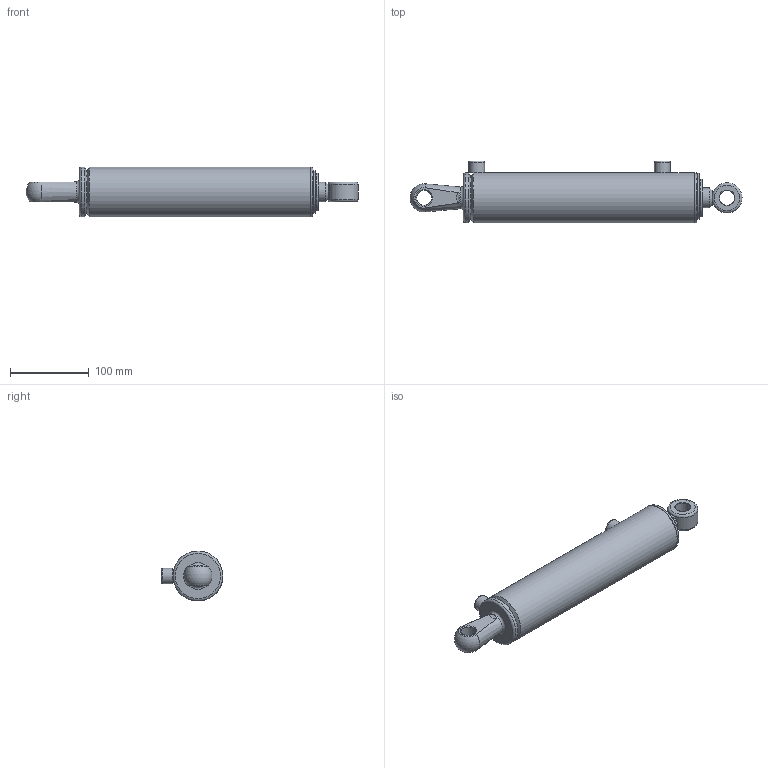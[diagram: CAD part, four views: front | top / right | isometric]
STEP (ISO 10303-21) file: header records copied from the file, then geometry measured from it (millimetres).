
FILE_DESCRIPTION(/* description */ ('Alibre Inc.'),/* implementation_level */ '2;1');
FILE_NAME(/* name */ 'export0',/* time_stamp */ '2016-08-16T09:49:13+12:00',/* author */ (''),/* organization */ (''),/* preprocessor_version */ 'ST-DEVELOPER v14',/* originating_system */ 'Alibre',/* authorisation */ '');
FILE_SCHEMA (('AUTOMOTIVE_DESIGN'));
Length unit declared in the file: centimetre
Bounding box: 421.94 x 78.5 x 63.5 mm (x, y, z)
Volume: 674593.4 mm3; surface area: 190284 mm2
Topology: 11 solids, 11 shells, 138 faces, 278 edges, 173 vertices
Faces by surface type: cylinder 51, plane 44, cone 27, torus 13, bspline 2, sphere 1
Full cylindrical faces by diameter (mm): 2.5 x2, 5.588 x1, 6.35 x2, 8.3 x2, 11.9 x2, 17.323 x2, 19.05 x2, 19.101 x1, 20 x2, 25.4 x1, 25.45 x2, 31.77 x1, 31.8 x1, 32.5 x1, 34.93 x2, 38.1 x1, 41.3 x2, 44.91 x1, 45.5 x1, 46.23 x2, 48 x2, 48.3 x1, 49.48 x2, 50.07 x1, 50.69 x2, 50.8 x2, 54 x1, 63.5 x3
Entity records: 3664 total; most frequent: CARTESIAN_POINT 968, DIRECTION 530, ORIENTED_EDGE 330, AXIS2_PLACEMENT_3D 283, FACE_BOUND 258, EDGE_LOOP 256, EDGE_CURVE 165, VERTEX_POINT 153
